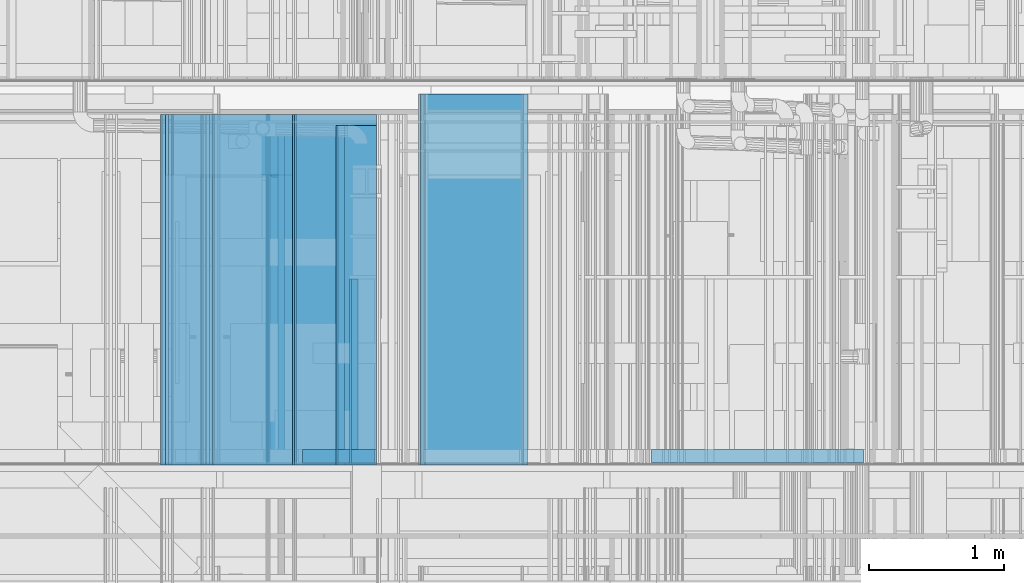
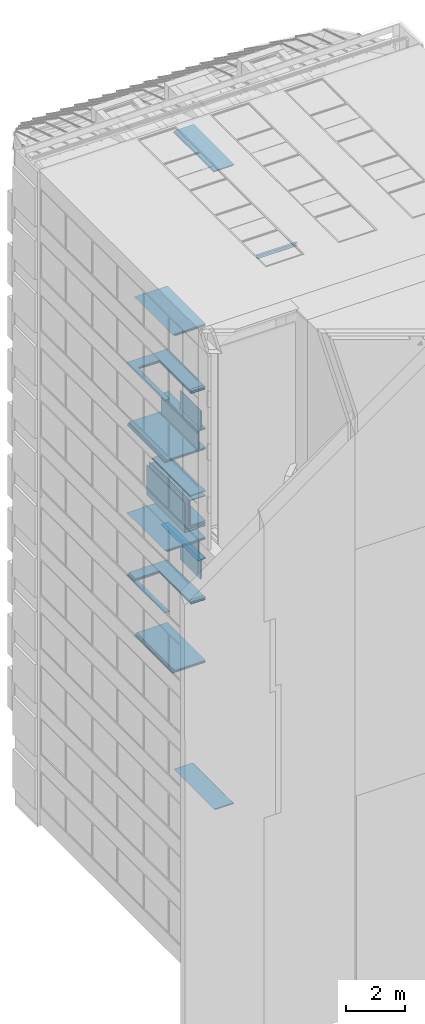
# One storey, part 90 of 583: 54 building element parts, 6 openings, 18 elements without a shape of their own.
"""IFC2X3 building model written with IfcOpenShell, lengths in metres."""

import ifcopenshell
import ifcopenshell.guid

model = None  # the IFC model being written
_history = None  # IfcOwnerHistory: only IFC2X3 demands one
_inside = {}  # id of a spatial element -> (the spatial element, [elements in it])
_under = {}  # id of a project, library or spatial element -> (it, [spatial elements below it])
_declared = {}  # id of a project -> (the project, [libraries it declares])
_typed = {}  # id of a type object -> (the type object, [elements of that type])
_made_of = {}  # id of a material, layer set ... -> (it, [elements and type objects made of it])


def new_model(schema):
    """Start an empty IFC model of exactly this schema.

    Asked for "IFC4X3", IfcOpenShell would pick the latest addendum, in which some entities
    have other attributes; the version numbers below select the first issue.
    IFC2X3 requires an IfcOwnerHistory on every rooted entity: one is made here for all.
    """
    global model, _history
    if schema == "IFC4X3":
        model = ifcopenshell.file(schema_version=(4, 3, 0, 0))
    else:
        model = ifcopenshell.file(schema=schema)
    _inside.clear()
    _under.clear()
    _declared.clear()
    _typed.clear()
    _made_of.clear()
    _history = None
    if model.schema == "IFC2X3":
        org = make("IfcOrganization", Name="unknown")
        user = make(
            "IfcPersonAndOrganization",
            ThePerson=make("IfcPerson", FamilyName="unknown"),
            TheOrganization=org,
        )
        app = make(
            "IfcApplication",
            ApplicationDeveloper=org,
            Version="unknown",
            ApplicationFullName="unknown",
            ApplicationIdentifier="unknown",
        )
        _history = make(
            "IfcOwnerHistory",
            OwningUser=user,
            OwningApplication=app,
            ChangeAction="ADDED",
            CreationDate=0,
        )
    return model


def make(cls, **values):
    """One entity of the class cls with the attributes given. An attribute that is None is left unset."""
    return model.create_entity(
        cls, **{name: value for name, value in values.items() if value is not None}
    )


def entity(cls, *values):
    """Any entity or typed value of the class cls, its attributes in the order of the schema. None: left unset."""
    e = model.create_entity(cls)
    for i, value in enumerate(values):
        if value is not None:
            e[i] = value
    return e


def rooted(cls, **values):
    """An entity with a GlobalId (a new one), such as an element, a storey or a relation."""
    return make(cls, GlobalId=ifcopenshell.guid.new(), OwnerHistory=_history, **values)


def si_unit(unit_type, name, prefix=None):
    """IfcSIUnit, for example si_unit("LENGTHUNIT", "METRE", prefix="MILLI")."""
    return make("IfcSIUnit", UnitType=unit_type, Prefix=prefix, Name=name)


def converted_unit(unit_type, name, factor, base, dimensions=None, offset=None):
    """IfcConversionBasedUnit, such as the inch: factor (a typed value) times the base unit."""
    return make(
        "IfcConversionBasedUnit"
        if offset is None
        else "IfcConversionBasedUnitWithOffset",
        ConversionOffset=offset,
        Dimensions=None
        if dimensions is None
        else entity("IfcDimensionalExponents", *dimensions),
        UnitType=unit_type,
        Name=name,
        ConversionFactor=make(
            "IfcMeasureWithUnit", ValueComponent=factor, UnitComponent=base
        ),
    )


def derived_unit(unit_type, elements):
    """IfcDerivedUnit: a product of units, each with its exponent."""
    return make(
        "IfcDerivedUnit",
        Elements=[
            make("IfcDerivedUnitElement", Unit=unit, Exponent=power)
            for unit, power in elements
        ],
        UnitType=unit_type,
    )


def money_unit(currency):
    """IfcMonetaryUnit."""
    return make("IfcMonetaryUnit", Currency=currency)


def assignment(units):
    """IfcUnitAssignment: the units of a project."""
    return None if units is None else make("IfcUnitAssignment", Units=units)


def point(xyz):
    """IfcCartesianPoint."""
    return None if xyz is None else make("IfcCartesianPoint", Coordinates=xyz)


def direction(xyz):
    """IfcDirection."""
    return None if xyz is None else make("IfcDirection", DirectionRatios=xyz)


def frame(location, z_axis=None, x_axis=None):
    """IfcAxis2Placement3D, a coordinate frame: its origin and axes. An axis left out is left unset."""
    return make(
        "IfcAxis2Placement3D",
        Location=point(location),
        Axis=direction(z_axis),
        RefDirection=direction(x_axis),
    )


def frame_2d(location, x_axis=None):
    """IfcAxis2Placement2D, a coordinate frame in the plane: its origin and x axis."""
    return make(
        "IfcAxis2Placement2D", Location=point(location), RefDirection=direction(x_axis)
    )


def origin_with_axes():
    """The frame at (0, 0, 0) with the z axis (0, 0, 1) and the x axis (1, 0, 0) written out."""
    return frame((0.0, 0.0, 0.0), z_axis=(0.0, 0.0, 1.0), x_axis=(1.0, 0.0, 0.0))


def place(relative_to, where):
    """IfcLocalPlacement: puts the frame where relative to a parent placement (None: the world)."""
    return make(
        "IfcLocalPlacement", PlacementRelTo=relative_to, RelativePlacement=where
    )


def context(
    kind, dimensions, precision=None, world=None, true_north=None, identifier=None
):
    """IfcGeometricRepresentationContext, for example the 3D "Model" context."""
    return make(
        "IfcGeometricRepresentationContext",
        ContextIdentifier=identifier,
        ContextType=kind,
        CoordinateSpaceDimension=dimensions,
        Precision=precision,
        WorldCoordinateSystem=world,
        TrueNorth=true_north,
    )


def subcontext(parent, identifier, kind, view, scale=None):
    """IfcGeometricRepresentationSubContext, for example "Body" below "Model"."""
    return make(
        "IfcGeometricRepresentationSubContext",
        ContextIdentifier=identifier,
        ContextType=kind,
        ParentContext=parent,
        TargetScale=scale,
        TargetView=view,
    )


def project(units=None, contexts=None):
    """IfcProject with its units and contexts."""
    return rooted(
        "IfcProject",
        Name="project",
        RepresentationContexts=contexts,
        UnitsInContext=assignment(units),
    )


def spatial(cls, under=None, at=None, **own):
    """A site, building, storey or space (cls), placed at a placement, below another one or the project."""
    s = rooted(cls, ObjectPlacement=at, **own)
    if under is not None:
        _under.setdefault(under.id(), (under, []))[1].append(s)
    return s


def polyline(points):
    """IfcPolyline through the points."""
    return make("IfcPolyline", Points=[point(p) for p in points])


def profile(cls, at=None, kind="AREA", **sizes):
    """A parametric profile (cls). Its sizes go by their IFC names, for example OverallWidth=200.0."""
    return make(cls, ProfileType=kind, Position=at, **sizes)


def rectangle(**sizes):
    """IfcRectangleProfileDef."""
    return profile("IfcRectangleProfileDef", **sizes)


def outline(outer, holes=None, kind="AREA"):
    """IfcArbitraryClosedProfileDef: a profile drawn as a closed curve; with holes, ...WithVoids."""
    if holes is None:
        return make("IfcArbitraryClosedProfileDef", ProfileType=kind, OuterCurve=outer)
    return make(
        "IfcArbitraryProfileDefWithVoids",
        ProfileType=kind,
        OuterCurve=outer,
        InnerCurves=holes,
    )


def extrude(swept, where, along, depth):
    """IfcExtrudedAreaSolid: the profile swept, set in the frame where, extruded along a direction by depth."""
    return make(
        "IfcExtrudedAreaSolid",
        SweptArea=swept,
        Position=where,
        ExtrudedDirection=direction(along),
        Depth=depth,
    )


def shape(context_of_items, identifier, shape_type, items):
    """IfcShapeRepresentation: the items that make up one representation, for example the "Body"."""
    return make(
        "IfcShapeRepresentation",
        ContextOfItems=context_of_items,
        RepresentationIdentifier=identifier,
        RepresentationType=shape_type,
        Items=items,
    )


def material(Name=None, Category=None):
    """IfcMaterial."""
    return make("IfcMaterial", Name=Name, Category=Category)


def made_of(thing, what):
    """Note that an element or type object is made of a material, layer set ...; save() writes the relation."""
    if what is not None:
        _made_of.setdefault(what.id(), (what, []))[1].append(thing)
    return thing


def type_object(cls, material=None, **own):
    """A type object (cls), such as IfcWallType, which elements share."""
    return made_of(rooted(cls, **own), material)


def element(
    cls,
    number,
    at=None,
    inside=None,
    cuts=None,
    type_object=None,
    material=None,
    context=None,
    identifier="Body",
    shape_type=None,
    held_by="IfcProductDefinitionShape",
    body=None,
    shapes=None,
    **own,
):
    """One element of the class cls, such as IfcWall. Its Tag is "e" and its number.

    at: its placement. inside: the storey or other place that contains it. cuts: it is an
    opening in that element (IfcRelVoidsElement). A single representation is given by context,
    identifier, shape_type and body (its items); several are given by shapes. held_by: the class
    of the entity that holds the representations. save() writes the other relations.
    """
    e = rooted(cls, Tag="e%d" % number, ObjectPlacement=at, **own)
    if body is not None:
        shapes = [shape(context, identifier, shape_type, body)]
    if shapes is not None:
        e.Representation = make(held_by, Representations=shapes)
    if inside is not None:
        _inside.setdefault(inside.id(), (inside, []))[1].append(e)
    if cuts is not None:
        rooted(
            "IfcRelVoidsElement", RelatingBuildingElement=cuts, RelatedOpeningElement=e
        )
    if type_object is not None:
        _typed.setdefault(type_object.id(), (type_object, []))[1].append(e)
    return made_of(e, material)


def aggregate(whole, parts):
    """IfcRelAggregates: a whole, such as a stair, and the parts it consists of."""
    return rooted("IfcRelAggregates", RelatingObject=whole, RelatedObjects=parts)


def save(model, path):
    """Write the relations noted so far, then the file.

    IfcRelAggregates (storeys below a building ...), IfcRelContainedInSpatialStructure (elements
    in a storey), IfcRelDefinesByType, IfcRelAssociatesMaterial and IfcRelDeclares: one each for
    every whole, place, type object, material and project.
    """
    for whole, parts in _under.values():
        aggregate(whole, parts)
    for where, things in _inside.values():
        rooted(
            "IfcRelContainedInSpatialStructure",
            RelatedElements=things,
            RelatingStructure=where,
        )
    for kind, things in _typed.values():
        rooted("IfcRelDefinesByType", RelatedObjects=things, RelatingType=kind)
    for what, things in _made_of.values():
        rooted("IfcRelAssociatesMaterial", RelatedObjects=things, RelatingMaterial=what)
    for by, libraries in _declared.values():
        rooted("IfcRelDeclares", RelatingContext=by, RelatedDefinitions=libraries)
    model.write(path)


model = new_model("IFC2X3")

# Units and contexts
model_context = context("Model", 3, precision=1e-05, world=origin_with_axes(), true_north=direction((0.0, 1.0)))
body_context = subcontext(model_context, "Body", "Model", "MODEL_VIEW", scale=1.0)
ifc_project = project(units=[si_unit("LENGTHUNIT", "METRE"), si_unit("AREAUNIT", "SQUARE_METRE"), si_unit("VOLUMEUNIT", "CUBIC_METRE"), si_unit("ABSORBEDDOSEUNIT", "GRAY"), si_unit("AMOUNTOFSUBSTANCEUNIT", "MOLE"), si_unit("DOSEEQUIVALENTUNIT", "SIEVERT"), si_unit("ELECTRICCAPACITANCEUNIT", "FARAD"), si_unit("ELECTRICCHARGEUNIT", "COULOMB"), si_unit("ELECTRICCONDUCTANCEUNIT", "SIEMENS"), si_unit("ELECTRICCURRENTUNIT", "AMPERE"), si_unit("ELECTRICRESISTANCEUNIT", "OHM"), si_unit("ELECTRICVOLTAGEUNIT", "VOLT"), si_unit("ENERGYUNIT", "JOULE"), si_unit("FORCEUNIT", "NEWTON"), si_unit("FREQUENCYUNIT", "HERTZ"), si_unit("ILLUMINANCEUNIT", "LUX"), si_unit("INDUCTANCEUNIT", "HENRY"), si_unit("LUMINOUSFLUXUNIT", "LUMEN"), si_unit("LUMINOUSINTENSITYUNIT", "CANDELA"), si_unit("MAGNETICFLUXDENSITYUNIT", "TESLA"), si_unit("MAGNETICFLUXUNIT", "WEBER"), si_unit("MASSUNIT", "GRAM"), converted_unit("PLANEANGLEUNIT", "degree", entity("IfcReal", 0.0174532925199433), si_unit("PLANEANGLEUNIT", "RADIAN"), dimensions=[0, 0, 0, 0, 0, 0, 0]), si_unit("POWERUNIT", "WATT"), si_unit("PRESSUREUNIT", "PASCAL"), si_unit("RADIOACTIVITYUNIT", "BECQUEREL"), si_unit("SOLIDANGLEUNIT", "STERADIAN"), si_unit("THERMODYNAMICTEMPERATUREUNIT", "KELVIN"), si_unit("TIMEUNIT", "SECOND"), derived_unit("ACCELERATIONUNIT", [(si_unit("LENGTHUNIT", "METRE"), 1), (si_unit("TIMEUNIT", "SECOND"), -2)]), derived_unit("ANGULARVELOCITYUNIT", [(converted_unit("PLANEANGLEUNIT", "degree", entity("IfcReal", 0.0174532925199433), si_unit("PLANEANGLEUNIT", "RADIAN"), dimensions=[0, 0, 0, 0, 0, 0, 0]), 1), (si_unit("TIMEUNIT", "SECOND"), -1)]), derived_unit("CURVATUREUNIT", [(converted_unit("PLANEANGLEUNIT", "degree", entity("IfcReal", 0.0174532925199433), si_unit("PLANEANGLEUNIT", "RADIAN"), dimensions=[0, 0, 0, 0, 0, 0, 0]), 1), (si_unit("LENGTHUNIT", "METRE"), -1)]), derived_unit("DYNAMICVISCOSITYUNIT", [(si_unit("PRESSUREUNIT", "PASCAL"), 1), (si_unit("TIMEUNIT", "SECOND"), 1)]), derived_unit("HEATFLUXDENSITYUNIT", [(si_unit("POWERUNIT", "WATT"), 1), (si_unit("LENGTHUNIT", "METRE"), -2)]), derived_unit("HEATINGVALUEUNIT", [(si_unit("ENERGYUNIT", "JOULE"), 1), (si_unit("MASSUNIT", "GRAM"), -1)]), derived_unit("INTEGERCOUNTRATEUNIT", [(si_unit("TIMEUNIT", "SECOND"), -1)]), derived_unit("IONCONCENTRATIONUNIT", [(si_unit("MASSUNIT", "GRAM"), 1), (si_unit("VOLUMEUNIT", "CUBIC_METRE"), -1)]), derived_unit("ISOTHERMALMOISTURECAPACITYUNIT", [(si_unit("VOLUMEUNIT", "CUBIC_METRE"), 1), (si_unit("MASSUNIT", "GRAM"), -1)]), derived_unit("KINEMATICVISCOSITYUNIT", [(si_unit("AREAUNIT", "SQUARE_METRE"), 1), (si_unit("TIMEUNIT", "SECOND"), -1)]), derived_unit("LINEARFORCEUNIT", [(si_unit("FORCEUNIT", "NEWTON"), 1), (si_unit("LENGTHUNIT", "METRE"), -1)]), derived_unit("LINEARMOMENTUNIT", [(si_unit("FORCEUNIT", "NEWTON"), 1), (si_unit("LENGTHUNIT", "METRE"), -1)]), derived_unit("LINEARSTIFFNESSUNIT", [(si_unit("FORCEUNIT", "NEWTON"), 1), (si_unit("LENGTHUNIT", "METRE"), -1)]), derived_unit("LINEARVELOCITYUNIT", [(si_unit("LENGTHUNIT", "METRE"), 1), (si_unit("TIMEUNIT", "SECOND"), -1)]), derived_unit("LUMINOUSINTENSITYDISTRIBUTIONUNIT", [(si_unit("LUMINOUSINTENSITYUNIT", "CANDELA"), 1), (si_unit("LUMINOUSFLUXUNIT", "LUMEN"), -1)]), derived_unit("MASSDENSITYUNIT", [(si_unit("MASSUNIT", "GRAM"), 1), (si_unit("VOLUMEUNIT", "CUBIC_METRE"), -1)]), derived_unit("MASSFLOWRATEUNIT", [(si_unit("MASSUNIT", "GRAM"), 1), (si_unit("TIMEUNIT", "SECOND"), -1)]), derived_unit("MASSPERLENGTHUNIT", [(si_unit("MASSUNIT", "GRAM"), 1), (si_unit("LENGTHUNIT", "METRE"), -1)]), derived_unit("MODULUSOFELASTICITYUNIT", [(si_unit("FORCEUNIT", "NEWTON"), 1), (si_unit("AREAUNIT", "SQUARE_METRE"), -1)]), derived_unit("MODULUSOFLINEARSUBGRADEREACTIONUNIT", [(si_unit("FORCEUNIT", "NEWTON"), 1), (si_unit("LENGTHUNIT", "METRE"), -2)]), derived_unit("MODULUSOFROTATIONALSUBGRADEREACTIONUNIT", [(si_unit("FORCEUNIT", "NEWTON"), 1), (si_unit("LENGTHUNIT", "METRE"), 1)]), derived_unit("MODULUSOFSUBGRADEREACTIONUNIT", [(si_unit("FORCEUNIT", "NEWTON"), 1), (si_unit("VOLUMEUNIT", "CUBIC_METRE"), -1)]), derived_unit("MOISTUREDIFFUSIVITYUNIT", [(si_unit("VOLUMEUNIT", "CUBIC_METRE"), 1), (si_unit("TIMEUNIT", "SECOND"), -1)]), derived_unit("MOLECULARWEIGHTUNIT", [(si_unit("MASSUNIT", "GRAM"), 1), (si_unit("AMOUNTOFSUBSTANCEUNIT", "MOLE"), -1)]), derived_unit("PLANARFORCEUNIT", [(si_unit("FORCEUNIT", "NEWTON"), 1), (si_unit("LENGTHUNIT", "METRE"), -2)]), derived_unit("ROTATIONALFREQUENCYUNIT", [(si_unit("TIMEUNIT", "SECOND"), -1)]), derived_unit("ROTATIONALMASSUNIT", [(si_unit("MASSUNIT", "GRAM"), 1), (si_unit("LENGTHUNIT", "METRE"), 2)]), derived_unit("ROTATIONALSTIFFNESSUNIT", [(si_unit("FORCEUNIT", "NEWTON"), 1), (si_unit("LENGTHUNIT", "METRE"), 1), (converted_unit("PLANEANGLEUNIT", "degree", entity("IfcReal", 0.0174532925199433), si_unit("PLANEANGLEUNIT", "RADIAN"), dimensions=[0, 0, 0, 0, 0, 0, 0]), -1)]), derived_unit("SECTIONAREAINTEGRALUNIT", [(si_unit("LENGTHUNIT", "METRE"), 5)]), derived_unit("SECTIONMODULUSUNIT", [(si_unit("LENGTHUNIT", "METRE"), 3)]), derived_unit("SHEARMODULUSUNIT", [(si_unit("FORCEUNIT", "NEWTON"), 1), (si_unit("AREAUNIT", "SQUARE_METRE"), -1)]), derived_unit("SOUNDPOWERUNIT", [(si_unit("ENERGYUNIT", "JOULE"), 1), (si_unit("TIMEUNIT", "SECOND"), -1)]), derived_unit("SPECIFICHEATCAPACITYUNIT", [(si_unit("FORCEUNIT", "NEWTON"), 1), (si_unit("MASSUNIT", "GRAM"), -1), (si_unit("THERMODYNAMICTEMPERATUREUNIT", "KELVIN"), -1)]), derived_unit("TEMPERATUREGRADIENTUNIT", [(si_unit("THERMODYNAMICTEMPERATUREUNIT", "KELVIN"), 1), (si_unit("LENGTHUNIT", "METRE"), -1)]), derived_unit("THERMALADMITTANCEUNIT", [(si_unit("POWERUNIT", "WATT"), 1), (si_unit("AREAUNIT", "SQUARE_METRE"), -1), (si_unit("THERMODYNAMICTEMPERATUREUNIT", "KELVIN"), -1)]), derived_unit("THERMALCONDUCTANCEUNIT", [(si_unit("POWERUNIT", "WATT"), 1), (si_unit("LENGTHUNIT", "METRE"), -1), (si_unit("THERMODYNAMICTEMPERATUREUNIT", "KELVIN"), -1)]), derived_unit("THERMALEXPANSIONCOEFFICIENTUNIT", [(si_unit("THERMODYNAMICTEMPERATUREUNIT", "KELVIN"), -1)]), derived_unit("THERMALRESISTANCEUNIT", [(si_unit("AREAUNIT", "SQUARE_METRE"), 1), (si_unit("POWERUNIT", "WATT"), -1)]), derived_unit("THERMALTRANSMITTANCEUNIT", [(si_unit("POWERUNIT", "WATT"), 1), (si_unit("AREAUNIT", "SQUARE_METRE"), -1), (si_unit("THERMODYNAMICTEMPERATUREUNIT", "KELVIN"), -1)]), derived_unit("TORQUEUNIT", [(si_unit("FORCEUNIT", "NEWTON"), 1), (si_unit("LENGTHUNIT", "METRE"), 1)]), derived_unit("VAPORPERMEABILITYUNIT", [(si_unit("MASSUNIT", "GRAM"), 1), (si_unit("TIMEUNIT", "SECOND"), -1)]), derived_unit("VOLUMETRICFLOWRATEUNIT", [(si_unit("VOLUMEUNIT", "CUBIC_METRE"), 1), (si_unit("TIMEUNIT", "SECOND"), -1)]), derived_unit("WARPINGCONSTANTUNIT", [(si_unit("LENGTHUNIT", "METRE"), 6)]), derived_unit("WARPINGMOMENTUNIT", [(si_unit("FORCEUNIT", "NEWTON"), 1), (si_unit("LENGTHUNIT", "METRE"), 2)]), money_unit("GBP")], contexts=[model_context])

# Site, building, storey
site_placement = place(None, origin_with_axes())
site = spatial("IfcSite", under=ifc_project, at=site_placement, Name="Site", CompositionType="ELEMENT")
building_placement = place(site_placement, origin_with_axes())
building = spatial("IfcBuilding", under=site, at=building_placement, Name="Building01", CompositionType="ELEMENT")
storey_placement = place(building_placement, frame((0.0, 0.0, 20.78), z_axis=(0.0, 0.0, 1.0), x_axis=(1.0, 0.0, 0.0)))
storey = spatial("IfcBuildingStorey", under=building, at=storey_placement, Name="RL", CompositionType="ELEMENT", Elevation=20.78)

# Wall, building element parts
wall_type_1 = type_object("IfcWallType", Name="SHE_A-Walls_Type06d_ExternalWallInsulation_48mm", PredefinedType="NOTDEFINED")
wall_1_placement = place(storey_placement, frame((6.1, 12.13, -20.51), z_axis=(0.0, 1.0, 0.0), x_axis=(-1.0, 0.0, 0.0)))
wall_1 = element("IfcWall", 1, at=wall_1_placement, inside=storey, type_object=wall_type_1, Name="6D", ObjectType="SHE_A-Walls_Type06d_ExternalWallInsulation_48mm")
ifc_material_1 = material(Name="A_BSUK_Insulation")
placement_1 = place(wall_1_placement, origin_with_axes())
building_element_part_1 = element("IfcBuildingElementPart", 2, at=placement_1, material=ifc_material_1, Name="1", context=body_context, shape_type="SweptSolid", body=[
    extrude(outline(polyline([(0.773, 0.036), (0.036, 0.036), (0.0, 0.0), (0.737, 0.0), (0.773, 0.036)])), origin_with_axes(), (0.0, 0.0, 1.0), 2.74),
])
ifc_material_2 = material(Name="A_BSUK_WallInternal_Finishes_Plasterboard")
building_element_part_2 = element("IfcBuildingElementPart", 3, at=placement_1, material=ifc_material_2, Name="3", context=body_context, shape_type="SweptSolid", body=[
    extrude(outline(polyline([(0.785, 0.048), (0.048, 0.048), (0.035, 0.035), (0.772, 0.035), (0.785, 0.048)])), origin_with_axes(), (0.0, 0.0, 1.0), 2.74),
])
aggregate(wall_1, [building_element_part_1, building_element_part_2])

wall_2_placement = place(storey_placement, frame((5.34018, 12.13, 5.93), z_axis=(0.0, 1.0, 0.0), x_axis=(1.0, 0.0, 0.0)))
wall_2 = element("IfcWall", 4, at=wall_2_placement, inside=storey, type_object=wall_type_1, Name="6D", ObjectType="SHE_A-Walls_Type06d_ExternalWallInsulation_48mm")
placement_2 = place(wall_2_placement, origin_with_axes())
building_element_part_3 = element("IfcBuildingElementPart", 5, at=placement_2, material=ifc_material_1, Name="1", context=body_context, shape_type="SweptSolid", body=[
    extrude(outline(polyline([(0.72382, 0.036), (-0.036, 0.036), (0.0, 0.0), (0.75982, 0.0), (0.72382, 0.036)])), origin_with_axes(), (0.0, 0.0, 1.0), 2.74),
])
building_element_part_4 = element("IfcBuildingElementPart", 6, at=placement_2, material=ifc_material_2, Name="3", context=body_context, shape_type="SweptSolid", body=[
    extrude(outline(polyline([(0.71182, 0.048), (-0.048, 0.048), (-0.035, 0.035), (0.72482, 0.035), (0.71182, 0.048)])), origin_with_axes(), (0.0, 0.0, 1.0), 2.74),
])
aggregate(wall_2, [building_element_part_3, building_element_part_4])

wall_type_2 = type_object("IfcWallType", Name="SHE_A-Walls_Type01c_Partywall_225mm_twin_tall", PredefinedType="NOTDEFINED")
wall_3_placement = place(storey_placement, frame((4.302428, 12.13, -8.492), z_axis=(0.0, 1.0, 0.0), x_axis=(0.0, 0.0, 1.0)))
wall_3 = element("IfcWall", 7, at=wall_3_placement, inside=storey, type_object=wall_type_2, Name="1C", ObjectType="SHE_A-Walls_Type01c_Partywall_225mm_twin_tall")
placement_3 = place(wall_3_placement, origin_with_axes())
building_element_part_5 = element("IfcBuildingElementPart", 8, at=placement_3, material=ifc_material_1, Name="1", context=body_context, shape_type="SweptSolid", body=[
    extrude(outline(polyline([(1.1875, 0.0), (0.0, 0.0), (-0.05, -0.05), (1.1875, -0.05), (1.1875, 0.0)])), origin_with_axes(), (0.0, 0.0, 1.0), 2.59),
])
building_element_part_6 = element("IfcBuildingElementPart", 9, at=placement_3, material=ifc_material_2, Name="3", context=body_context, shape_type="SweptSolid", body=[
    extrude(outline(polyline([(1.1145, 0.087), (0.087, 0.087), (0.072, 0.072), (1.1145, 0.072), (1.1145, 0.087)])), origin_with_axes(), (0.0, 0.0, 1.0), 2.59),
])
building_element_part_7 = element("IfcBuildingElementPart", 10, at=placement_3, material=ifc_material_2, Name="4", context=body_context, shape_type="SweptSolid", body=[
    extrude(outline(polyline([(1.1145, 0.072), (0.072, 0.072), (0.057, 0.057), (1.1145, 0.057), (1.1145, 0.072)])), origin_with_axes(), (0.0, 0.0, 1.0), 2.59),
])
building_element_part_8 = element("IfcBuildingElementPart", 11, at=placement_3, material=ifc_material_2, Name="5", context=body_context, shape_type="SweptSolid", body=[
    extrude(outline(polyline([(1.1145, -0.108), (-0.108, -0.108), (-0.123, -0.123), (1.1145, -0.123), (1.1145, -0.108)])), origin_with_axes(), (0.0, 0.0, 1.0), 2.59),
])
building_element_part_9 = element("IfcBuildingElementPart", 12, at=placement_3, material=ifc_material_2, Name="6", context=body_context, shape_type="SweptSolid", body=[
    extrude(outline(polyline([(1.0995, -0.123), (-0.123, -0.123), (-0.138, -0.138), (1.0995, -0.138), (1.0995, -0.123)])), origin_with_axes(), (0.0, 0.0, 1.0), 2.59),
])
aggregate(wall_3, [building_element_part_5, building_element_part_6, building_element_part_7, building_element_part_8, building_element_part_9])

wall_4_placement = place(storey_placement, frame((4.995, 12.13, -7.2795), z_axis=(0.0, 1.0, 0.0), x_axis=(-1.0, 0.0, 0.0)))
wall_4 = element("IfcWall", 13, at=wall_4_placement, inside=storey, type_object=wall_type_2, Name="1C", ObjectType="SHE_A-Walls_Type01c_Partywall_225mm_twin_tall")
placement_4 = place(wall_4_placement, origin_with_axes())
building_element_part_10 = element("IfcBuildingElementPart", 14, at=placement_4, material=ifc_material_2, Name="3", context=body_context, shape_type="SweptSolid", body=[
    extrude(rectangle(XDim=0.590572, YDim=0.015, at=frame_2d((0.310286, 0.1045), x_axis=(-1.0, 0.0))), origin_with_axes(), (0.0, 0.0, 1.0), 2.59),
])
building_element_part_11 = element("IfcBuildingElementPart", 15, at=placement_4, material=ifc_material_2, Name="4", context=body_context, shape_type="SweptSolid", body=[
    extrude(rectangle(XDim=0.620572, YDim=0.015, at=frame_2d((0.325286, 0.0895), x_axis=(-1.0, 0.0))), origin_with_axes(), (0.0, 0.0, 1.0), 2.59),
])
building_element_part_12 = element("IfcBuildingElementPart", 16, at=placement_4, material=ifc_material_2, Name="5", context=body_context, shape_type="SweptSolid", body=[
    extrude(rectangle(XDim=0.620572, YDim=0.015, at=frame_2d((0.325286, -0.0905), x_axis=(-1.0, 0.0))), origin_with_axes(), (0.0, 0.0, 1.0), 2.59),
])
building_element_part_13 = element("IfcBuildingElementPart", 17, at=placement_4, material=ifc_material_2, Name="6", context=body_context, shape_type="SweptSolid", body=[
    extrude(rectangle(XDim=0.590572, YDim=0.015, at=frame_2d((0.310286, -0.1055), x_axis=(-1.0, 0.0))), origin_with_axes(), (0.0, 0.0, 1.0), 2.59),
])
aggregate(wall_4, [building_element_part_10, building_element_part_11, building_element_part_12, building_element_part_13])

wall_5_placement = place(storey_placement, frame((4.98, 12.13, -8.492), z_axis=(0.0, 1.0, 0.0), x_axis=(-1.0, 0.0, 0.0)))
wall_5 = element("IfcWall", 18, at=wall_5_placement, inside=storey, type_object=wall_type_2, Name="1C", ObjectType="SHE_A-Walls_Type01c_Partywall_225mm_twin_tall")
placement_5 = place(wall_5_placement, origin_with_axes())
building_element_part_14 = element("IfcBuildingElementPart", 19, at=placement_5, material=ifc_material_1, Name="1", context=body_context, shape_type="SweptSolid", body=[
    extrude(outline(polyline([(0.677572, 0.0), (0.0, 0.0), (0.0, -0.05), (0.727572, -0.05), (0.677572, 0.0)])), origin_with_axes(), (0.0, 0.0, 1.0), 2.59),
])
building_element_part_15 = element("IfcBuildingElementPart", 20, at=placement_5, material=ifc_material_2, Name="3", context=body_context, shape_type="SweptSolid", body=[
    extrude(outline(polyline([(0.590572, 0.087), (0.0, 0.087), (0.0, 0.072), (0.605572, 0.072), (0.590572, 0.087)])), origin_with_axes(), (0.0, 0.0, 1.0), 2.59),
])
building_element_part_16 = element("IfcBuildingElementPart", 21, at=placement_5, material=ifc_material_2, Name="4", context=body_context, shape_type="SweptSolid", body=[
    extrude(outline(polyline([(0.605572, 0.072), (0.0, 0.072), (0.0, 0.057), (0.620572, 0.057), (0.605572, 0.072)])), origin_with_axes(), (0.0, 0.0, 1.0), 2.59),
])
building_element_part_17 = element("IfcBuildingElementPart", 22, at=placement_5, material=ifc_material_2, Name="5", context=body_context, shape_type="SweptSolid", body=[
    extrude(outline(polyline([(0.785572, -0.108), (0.0, -0.108), (0.0, -0.123), (0.800572, -0.123), (0.785572, -0.108)])), origin_with_axes(), (0.0, 0.0, 1.0), 2.59),
])
building_element_part_18 = element("IfcBuildingElementPart", 23, at=placement_5, material=ifc_material_2, Name="6", context=body_context, shape_type="SweptSolid", body=[
    extrude(outline(polyline([(0.800572, -0.123), (0.0, -0.123), (0.0, -0.138), (0.815572, -0.138), (0.800572, -0.123)])), origin_with_axes(), (0.0, 0.0, 1.0), 2.59),
])
aggregate(wall_5, [building_element_part_14, building_element_part_15, building_element_part_16, building_element_part_17, building_element_part_18])

wall_type_3 = type_object("IfcWallType", Name="SHE_A-Walls_Type05c_PreWallShell_65mm", PredefinedType="NOTDEFINED")
wall_6_placement = place(storey_placement, frame((4.845, 12.13, -4.5725), z_axis=(0.0, 1.0, 0.0), x_axis=(0.0, 0.0, 1.0)))
wall_6 = element("IfcWall", 24, at=wall_6_placement, inside=storey, type_object=wall_type_3, Name="5C", ObjectType="SHE_A-Walls_Type05c_PreWallShell_65mm")
ifc_material_3 = material(Name="A_BSUK_OpeningsClearance")
placement_6 = place(wall_6_placement, origin_with_axes())
building_element_part_19 = element("IfcBuildingElementPart", 25, at=placement_6, material=ifc_material_3, Name="1", context=body_context, shape_type="SweptSolid", body=[
    extrude(outline(polyline([(0.735, 0.0), (0.0, 0.0), (0.0, -0.05), (0.785, -0.05), (0.735, 0.0)])), origin_with_axes(), (0.0, 0.0, 1.0), 1.375),
])
ifc_material_4 = material(Name="A_BSUK_Walls_Timber")
building_element_part_20 = element("IfcBuildingElementPart", 26, at=placement_6, material=ifc_material_4, Name="2", context=body_context, shape_type="SweptSolid", body=[
    extrude(outline(polyline([(0.785, -0.05), (0.0, -0.05), (0.0, -0.065), (0.8, -0.065), (0.785, -0.05)])), origin_with_axes(), (0.0, 0.0, 1.0), 1.375),
])
aggregate(wall_6, [building_element_part_19, building_element_part_20])

wall_type_4 = type_object("IfcWallType", Name="SHE_A-Walls_Type05a_Partition_95mm_tall", PredefinedType="NOTDEFINED")
wall_7_placement = place(storey_placement, frame((3.42, 12.13, -5.4325), z_axis=(0.0, 1.0, 0.0), x_axis=(1.0, 0.0, 0.0)))
wall_7 = element("IfcWall", 27, at=wall_7_placement, inside=storey, type_object=wall_type_4, Name="5A", ObjectType="SHE_A-Walls_Type05a_Partition_95mm_tall")
placement_7 = place(wall_7_placement, origin_with_axes())
building_element_part_21 = element("IfcBuildingElementPart", 28, at=placement_7, material=ifc_material_1, Name="1", context=body_context, shape_type="SweptSolid", body=[
    extrude(outline(polyline([(1.56, 0.0), (0.0, 0.0), (0.025, -0.025), (1.56, -0.025), (1.56, 0.0)])), origin_with_axes(), (0.0, 0.0, 1.0), 2.59),
])
building_element_part_22 = element("IfcBuildingElementPart", 29, at=placement_7, material=ifc_material_2, Name="4", context=body_context, shape_type="SweptSolid", body=[
    extrude(outline(polyline([(1.56, 0.035), (-0.035, 0.035), (-0.023, 0.023), (1.56, 0.023), (1.56, 0.035)])), origin_with_axes(), (0.0, 0.0, 1.0), 2.59),
])
building_element_part_23 = element("IfcBuildingElementPart", 30, at=placement_7, material=ifc_material_2, Name="5", context=body_context, shape_type="SweptSolid", body=[
    extrude(outline(polyline([(1.56, -0.048), (0.048, -0.048), (0.06, -0.06), (1.56, -0.06), (1.56, -0.048)])), origin_with_axes(), (0.0, 0.0, 1.0), 2.59),
])
aggregate(wall_7, [building_element_part_21, building_element_part_22, building_element_part_23])

wall_8_placement = place(storey_placement, frame((6.965, 12.13, 1.756661), z_axis=(0.0, 1.0, 0.0), x_axis=(1.0, 0.0, 0.0)))
wall_8 = element("IfcWall", 31, at=wall_8_placement, inside=storey, type_object=wall_type_4, Name="5A", ObjectType="SHE_A-Walls_Type05a_Partition_95mm_tall")
placement_8 = place(wall_8_placement, origin_with_axes())
building_element_part_24 = element("IfcBuildingElementPart", 32, at=placement_8, material=ifc_material_4, Name="2", context=body_context, shape_type="SweptSolid", body=[
    extrude(rectangle(XDim=1.565, YDim=0.015, at=frame_2d((0.8325, 0.0675), x_axis=(-1.0, 0.0))), frame((0.0, 0.0, 0.015), z_axis=(0.0, 0.0, 1.0), x_axis=(1.0, 0.0, 0.0)), (0.0, 0.0, 1.0), 0.1),
])
building_element_part_25 = element("IfcBuildingElementPart", 33, at=placement_8, material=ifc_material_4, Name="3", context=body_context, shape_type="SweptSolid", body=[
    extrude(rectangle(XDim=1.565, YDim=0.015, at=frame_2d((0.8325, -0.0425), x_axis=(-1.0, 0.0))), frame((0.0, 0.0, 0.015), z_axis=(0.0, 0.0, 1.0), x_axis=(1.0, 0.0, 0.0)), (0.0, 0.0, 1.0), 0.1),
])
aggregate(wall_8, [building_element_part_24, building_element_part_25])

wall_9_placement = place(storey_placement, frame((4.695, 12.13, -4.6375), z_axis=(0.0, 1.0, 0.0), x_axis=(1.0, 0.0, 0.0)))
wall_9 = element("IfcWall", 34, at=wall_9_placement, inside=storey, type_object=wall_type_3, Name="5C", ObjectType="SHE_A-Walls_Type05c_PreWallShell_65mm")
placement_9 = place(wall_9_placement, origin_with_axes())
building_element_part_26 = element("IfcBuildingElementPart", 35, at=placement_9, material=ifc_material_3, Name="1", context=body_context, shape_type="SweptSolid", body=[
    extrude(rectangle(XDim=0.285, YDim=0.05, at=frame_2d((0.1425, -0.025), x_axis=(-1.0, 0.0))), origin_with_axes(), (0.0, 0.0, 1.0), 2.51),
])
building_element_part_27 = element("IfcBuildingElementPart", 36, at=placement_9, material=ifc_material_4, Name="2", context=body_context, shape_type="SweptSolid", body=[
    extrude(rectangle(XDim=0.3, YDim=0.015, at=frame_2d((0.135, -0.0575), x_axis=(-1.0, 0.0))), origin_with_axes(), (0.0, 0.0, 1.0), 2.51),
])
aggregate(wall_9, [building_element_part_26, building_element_part_27])

wall_10_placement = place(storey_placement, frame((4.745, 12.13, -5.3725), z_axis=(0.0, 1.0, 0.0), x_axis=(0.0, 0.0, 1.0)))
wall_10 = element("IfcWall", 37, at=wall_10_placement, inside=storey, type_object=wall_type_3, Name="5C", ObjectType="SHE_A-Walls_Type05c_PreWallShell_65mm")
placement_10 = place(wall_10_placement, origin_with_axes())
building_element_part_28 = element("IfcBuildingElementPart", 38, at=placement_10, material=ifc_material_3, Name="1", context=body_context, shape_type="SweptSolid", body=[
    extrude(rectangle(XDim=0.735, YDim=0.05, at=frame_2d((0.3675, -0.025), x_axis=(-1.0, 0.0))), origin_with_axes(), (0.0, 0.0, 1.0), 2.51),
])
building_element_part_29 = element("IfcBuildingElementPart", 39, at=placement_10, material=ifc_material_4, Name="2", context=body_context, shape_type="SweptSolid", body=[
    extrude(rectangle(XDim=0.785, YDim=0.015, at=frame_2d((0.3925, -0.0575), x_axis=(-1.0, 0.0))), origin_with_axes(), (0.0, 0.0, 1.0), 2.51),
])
aggregate(wall_10, [building_element_part_28, building_element_part_29])

# Wall, openings, building element parts
wall_11_placement = place(storey_placement, frame((4.98, 12.13, -2.9125), z_axis=(0.0, 1.0, 0.0), x_axis=(-1.0, 0.0, 0.0)))
wall_11 = element("IfcWall", 40, at=wall_11_placement, inside=storey, type_object=wall_type_4, Name="5A", ObjectType="SHE_A-Walls_Type05a_Partition_95mm_tall")
opening_1_placement = place(wall_11_placement, frame((0.574219, -0.1, -0.015), z_axis=(0.0, 0.0, 1.0), x_axis=(1.0, 0.0, 0.0)))
element("IfcOpeningElement", 41, at=opening_1_placement, cuts=wall_11, Name="Opening", ObjectType="Opening", context=body_context, shape_type="SweptSolid", body=[
    extrude(rectangle(XDim=0.834, YDim=2.142, at=frame_2d((0.417, 1.071), x_axis=(-1.0, 0.0))), frame((0.0, 0.15, 0.0), z_axis=(0.0, -1.0, 0.0), x_axis=(1.0, 0.0, 0.0)), (0.0, 0.0, 1.0), 0.3),
])
opening_2_placement = place(wall_11_placement, frame((0.774219, -0.06, 0.0), z_axis=(0.0, 0.0, 1.0), x_axis=(1.0, 0.0, 0.0)))
element("IfcOpeningElement", 42, at=opening_2_placement, cuts=wall_11, Name="Opening", ObjectType="Opening", context=body_context, shape_type="SweptSolid", body=[
    extrude(rectangle(XDim=2.142, YDim=0.834, at=frame_2d((0.417, 1.071), x_axis=(0.0, -1.0))), frame((0.0, 0.09, 0.0), z_axis=(0.0, -1.0, 0.0), x_axis=(1.0, 0.0, 0.0)), (0.0, 0.0, 1.0), 0.18),
])
opening_3_placement = place(wall_11_placement, frame((0.574219, 0.035, 0.0), z_axis=(0.0, 0.0, 1.0), x_axis=(1.0, 0.0, 0.0)))
element("IfcOpeningElement", 43, at=opening_3_placement, cuts=wall_11, Name="Opening", ObjectType="Opening", context=body_context, shape_type="SweptSolid", body=[
    extrude(rectangle(XDim=2.142, YDim=0.834, at=frame_2d((-0.417, 1.071), x_axis=(0.0, -1.0))), frame((0.0, -0.09, 0.0), z_axis=(0.0, 1.0, 0.0), x_axis=(-1.0, 0.0, 0.0)), (0.0, 0.0, 1.0), 0.18),
])
placement_11 = place(wall_11_placement, origin_with_axes())
building_element_part_30 = element("IfcBuildingElementPart", 44, at=placement_11, material=ifc_material_1, Name="1", context=body_context, shape_type="SweptSolid", body=[
    extrude(outline(polyline([(1.56, 0.0), (0.0, 0.0), (0.0, -0.025), (1.535, -0.025), (1.56, 0.0)])), origin_with_axes(), (0.0, 0.0, 1.0), 2.59),
])
building_element_part_31 = element("IfcBuildingElementPart", 45, at=placement_11, material=ifc_material_4, Name="2", context=body_context, shape_type="SweptSolid", body=[
    extrude(rectangle(XDim=0.015, YDim=0.532219, at=frame_2d((0.28111, 0.0425), x_axis=(0.0, -1.0))), frame((0.0, 0.0, 0.015), z_axis=(0.0, 0.0, 1.0), x_axis=(1.0, 0.0, 0.0)), (0.0, 0.0, 1.0), 0.1),
])
building_element_part_32 = element("IfcBuildingElementPart", 46, at=placement_11, material=ifc_material_4, Name="3", context=body_context, shape_type="SweptSolid", body=[
    extrude(rectangle(XDim=0.015, YDim=0.532219, at=frame_2d((0.28111, -0.0675), x_axis=(0.0, -1.0))), frame((0.0, 0.0, 0.015), z_axis=(0.0, 0.0, 1.0), x_axis=(1.0, 0.0, 0.0)), (0.0, 0.0, 1.0), 0.1),
])
building_element_part_33 = element("IfcBuildingElementPart", 47, at=placement_11, material=ifc_material_2, Name="4", context=body_context, shape_type="SweptSolid", body=[
    extrude(outline(polyline([(1.595, 0.035), (0.0, 0.035), (0.0, 0.023), (1.583, 0.023), (1.595, 0.035)])), origin_with_axes(), (0.0, 0.0, 1.0), 2.59),
])
building_element_part_34 = element("IfcBuildingElementPart", 48, at=placement_11, material=ifc_material_2, Name="5", context=body_context, shape_type="SweptSolid", body=[
    extrude(outline(polyline([(1.512, -0.048), (0.0, -0.048), (0.0, -0.06), (1.5, -0.06), (1.512, -0.048)])), origin_with_axes(), (0.0, 0.0, 1.0), 2.59),
])
aggregate(wall_11, [building_element_part_30, building_element_part_31, building_element_part_32, building_element_part_33, building_element_part_34])

# Wall, building element parts
wall_12_placement = place(storey_placement, frame((4.845, 12.13, -9.987464), z_axis=(0.0, 1.0, 0.0), x_axis=(0.0, 0.0, 1.0)))
wall_12 = element("IfcWall", 49, at=wall_12_placement, inside=storey, type_object=wall_type_3, Name="5C", ObjectType="SHE_A-Walls_Type05c_PreWallShell_65mm")
placement_12 = place(wall_12_placement, origin_with_axes())
building_element_part_35 = element("IfcBuildingElementPart", 50, at=placement_12, material=ifc_material_3, Name="1", context=body_context, shape_type="SweptSolid", body=[
    extrude(outline(polyline([(-0.785, -0.05), (0.0, -0.05), (0.0, 0.0), (-0.735, 0.0), (-0.785, -0.05)])), origin_with_axes(), (0.0, 0.0, 1.0), 1.375),
])
building_element_part_36 = element("IfcBuildingElementPart", 51, at=placement_12, material=ifc_material_4, Name="2", context=body_context, shape_type="SweptSolid", body=[
    extrude(outline(polyline([(-0.8, -0.065), (0.0, -0.065), (0.0, -0.05), (-0.785, -0.05), (-0.8, -0.065)])), origin_with_axes(), (0.0, 0.0, 1.0), 1.375),
])
aggregate(wall_12, [building_element_part_35, building_element_part_36])

wall_13_placement = place(storey_placement, frame((3.42, 12.13, -9.127464), z_axis=(0.0, 1.0, 0.0), x_axis=(1.0, 0.0, 0.0)))
wall_13 = element("IfcWall", 52, at=wall_13_placement, inside=storey, type_object=wall_type_4, Name="5A", ObjectType="SHE_A-Walls_Type05a_Partition_95mm_tall")
placement_13 = place(wall_13_placement, origin_with_axes())
building_element_part_37 = element("IfcBuildingElementPart", 53, at=placement_13, material=ifc_material_1, Name="1", context=body_context, shape_type="SweptSolid", body=[
    extrude(outline(polyline([(1.56, 0.025), (0.025, 0.025), (0.0, 0.0), (1.56, 0.0), (1.56, 0.025)])), origin_with_axes(), (0.0, 0.0, 1.0), 2.59),
])
building_element_part_38 = element("IfcBuildingElementPart", 54, at=placement_13, material=ifc_material_2, Name="4", context=body_context, shape_type="SweptSolid", body=[
    extrude(outline(polyline([(1.56, -0.023), (-0.023, -0.023), (-0.035, -0.035), (1.56, -0.035), (1.56, -0.023)])), origin_with_axes(), (0.0, 0.0, 1.0), 2.59),
])
building_element_part_39 = element("IfcBuildingElementPart", 55, at=placement_13, material=ifc_material_2, Name="5", context=body_context, shape_type="SweptSolid", body=[
    extrude(outline(polyline([(1.56, 0.06), (0.06, 0.06), (0.048, 0.048), (1.56, 0.048), (1.56, 0.06)])), origin_with_axes(), (0.0, 0.0, 1.0), 2.59),
])
aggregate(wall_13, [building_element_part_37, building_element_part_38, building_element_part_39])

wall_14_placement = place(storey_placement, frame((4.695, 12.13, -9.922464), z_axis=(0.0, 1.0, 0.0), x_axis=(1.0, 0.0, 0.0)))
wall_14 = element("IfcWall", 56, at=wall_14_placement, inside=storey, type_object=wall_type_3, Name="5C", ObjectType="SHE_A-Walls_Type05c_PreWallShell_65mm")
placement_14 = place(wall_14_placement, origin_with_axes())
building_element_part_40 = element("IfcBuildingElementPart", 57, at=placement_14, material=ifc_material_3, Name="1", context=body_context, shape_type="SweptSolid", body=[
    extrude(rectangle(XDim=0.285, YDim=0.05, at=frame_2d((0.1425, 0.025), x_axis=(-1.0, 0.0))), origin_with_axes(), (0.0, 0.0, 1.0), 2.51),
])
building_element_part_41 = element("IfcBuildingElementPart", 58, at=placement_14, material=ifc_material_4, Name="2", context=body_context, shape_type="SweptSolid", body=[
    extrude(rectangle(XDim=0.3, YDim=0.015, at=frame_2d((0.135, 0.0575), x_axis=(-1.0, 0.0))), origin_with_axes(), (0.0, 0.0, 1.0), 2.51),
])
aggregate(wall_14, [building_element_part_40, building_element_part_41])

wall_15_placement = place(storey_placement, frame((4.745, 12.13, -9.187464), z_axis=(0.0, 1.0, 0.0), x_axis=(0.0, 0.0, -1.0)))
wall_15 = element("IfcWall", 59, at=wall_15_placement, inside=storey, type_object=wall_type_3, Name="5C", ObjectType="SHE_A-Walls_Type05c_PreWallShell_65mm")
placement_15 = place(wall_15_placement, origin_with_axes())
building_element_part_42 = element("IfcBuildingElementPart", 60, at=placement_15, material=ifc_material_3, Name="1", context=body_context, shape_type="SweptSolid", body=[
    extrude(rectangle(XDim=0.735, YDim=0.05, at=frame_2d((0.3675, 0.025), x_axis=(-1.0, 0.0))), origin_with_axes(), (0.0, 0.0, 1.0), 2.51),
])
building_element_part_43 = element("IfcBuildingElementPart", 61, at=placement_15, material=ifc_material_4, Name="2", context=body_context, shape_type="SweptSolid", body=[
    extrude(rectangle(XDim=0.785, YDim=0.015, at=frame_2d((0.3925, 0.0575), x_axis=(-1.0, 0.0))), origin_with_axes(), (0.0, 0.0, 1.0), 2.51),
])
aggregate(wall_15, [building_element_part_42, building_element_part_43])

# Wall, openings, building element parts
wall_16_placement = place(storey_placement, frame((4.98, 12.13, -11.647464), z_axis=(0.0, 1.0, 0.0), x_axis=(-1.0, 0.0, 0.0)))
wall_16 = element("IfcWall", 62, at=wall_16_placement, inside=storey, type_object=wall_type_4, Name="5A", ObjectType="SHE_A-Walls_Type05a_Partition_95mm_tall")
opening_4_placement = place(wall_16_placement, frame((0.574219, 0.1, -0.015), z_axis=(0.0, 0.0, 1.0), x_axis=(1.0, 0.0, 0.0)))
element("IfcOpeningElement", 63, at=opening_4_placement, cuts=wall_16, Name="Opening", ObjectType="Opening", context=body_context, shape_type="SweptSolid", body=[
    extrude(rectangle(XDim=0.834, YDim=2.142, at=frame_2d((-0.417, 1.071), x_axis=(1.0, 0.0))), frame((0.0, -0.15, 0.0), z_axis=(0.0, 1.0, 0.0), x_axis=(-1.0, 0.0, 0.0)), (0.0, 0.0, 1.0), 0.3),
])
opening_5_placement = place(wall_16_placement, frame((0.774219, 0.06, 0.0), z_axis=(0.0, 0.0, 1.0), x_axis=(1.0, 0.0, 0.0)))
element("IfcOpeningElement", 64, at=opening_5_placement, cuts=wall_16, Name="Opening", ObjectType="Opening", context=body_context, shape_type="SweptSolid", body=[
    extrude(rectangle(XDim=2.142, YDim=0.834, at=frame_2d((-0.417, 1.071), x_axis=(0.0, -1.0))), frame((0.0, -0.09, 0.0), z_axis=(0.0, 1.0, 0.0), x_axis=(-1.0, 0.0, 0.0)), (0.0, 0.0, 1.0), 0.18),
])
opening_6_placement = place(wall_16_placement, frame((0.574219, 0.06, 0.0), z_axis=(0.0, 0.0, 1.0), x_axis=(1.0, 0.0, 0.0)))
element("IfcOpeningElement", 65, at=opening_6_placement, cuts=wall_16, Name="Opening", ObjectType="Opening", context=body_context, shape_type="SweptSolid", body=[
    extrude(rectangle(XDim=2.142, YDim=0.834, at=frame_2d((-0.417, 1.071), x_axis=(0.0, -1.0))), frame((0.0, -0.09, 0.0), z_axis=(0.0, 1.0, 0.0), x_axis=(-1.0, 0.0, 0.0)), (0.0, 0.0, 1.0), 0.18),
])
placement_16 = place(wall_16_placement, origin_with_axes())
building_element_part_44 = element("IfcBuildingElementPart", 66, at=placement_16, material=ifc_material_1, Name="1", context=body_context, shape_type="SweptSolid", body=[
    extrude(outline(polyline([(1.535, 0.025), (0.0, 0.025), (0.0, 0.0), (1.56, 0.0), (1.535, 0.025)])), origin_with_axes(), (0.0, 0.0, 1.0), 2.59),
])
building_element_part_45 = element("IfcBuildingElementPart", 67, at=placement_16, material=ifc_material_4, Name="2", context=body_context, shape_type="SweptSolid", body=[
    extrude(rectangle(XDim=0.015, YDim=0.547219, at=frame_2d((0.27361, -0.0425), x_axis=(0.0, -1.0))), frame((0.0, 0.0, 0.015), z_axis=(0.0, 0.0, 1.0), x_axis=(1.0, 0.0, 0.0)), (0.0, 0.0, 1.0), 0.1),
])
building_element_part_46 = element("IfcBuildingElementPart", 68, at=placement_16, material=ifc_material_4, Name="3", context=body_context, shape_type="SweptSolid", body=[
    extrude(rectangle(XDim=0.015, YDim=0.547219, at=frame_2d((0.27361, 0.0675), x_axis=(0.0, -1.0))), frame((0.0, 0.0, 0.015), z_axis=(0.0, 0.0, 1.0), x_axis=(1.0, 0.0, 0.0)), (0.0, 0.0, 1.0), 0.1),
])
building_element_part_47 = element("IfcBuildingElementPart", 69, at=placement_16, material=ifc_material_2, Name="4", context=body_context, shape_type="SweptSolid", body=[
    extrude(outline(polyline([(1.583, -0.023), (0.0, -0.023), (0.0, -0.035), (1.595, -0.035), (1.583, -0.023)])), origin_with_axes(), (0.0, 0.0, 1.0), 2.59),
])
building_element_part_48 = element("IfcBuildingElementPart", 70, at=placement_16, material=ifc_material_2, Name="5", context=body_context, shape_type="SweptSolid", body=[
    extrude(outline(polyline([(1.5, 0.06), (0.0, 0.06), (0.0, 0.048), (1.512, 0.048), (1.5, 0.06)])), origin_with_axes(), (0.0, 0.0, 1.0), 2.59),
])
aggregate(wall_16, [building_element_part_44, building_element_part_45, building_element_part_46, building_element_part_47, building_element_part_48])

# Wall, building element parts
wall_17_placement = place(storey_placement, frame((3.72, 12.13, -14.245), z_axis=(0.0, 1.0, 0.0), x_axis=(1.0, 0.0, 0.0)))
wall_17 = element("IfcWall", 71, at=wall_17_placement, inside=storey, type_object=wall_type_4, Name="5A", ObjectType="SHE_A-Walls_Type05a_Partition_95mm_tall")
placement_17 = place(wall_17_placement, origin_with_axes())
building_element_part_49 = element("IfcBuildingElementPart", 72, at=placement_17, material=ifc_material_1, Name="1", context=body_context, shape_type="SweptSolid", body=[
    extrude(outline(polyline([(1.26, 0.0), (0.0, 0.0), (0.025, -0.025), (1.26, -0.025), (1.26, 0.0)])), origin_with_axes(), (0.0, 0.0, 1.0), 2.59),
])
building_element_part_50 = element("IfcBuildingElementPart", 73, at=placement_17, material=ifc_material_2, Name="4", context=body_context, shape_type="SweptSolid", body=[
    extrude(outline(polyline([(1.26, 0.035), (-0.035, 0.035), (-0.023, 0.023), (1.26, 0.023), (1.26, 0.035)])), origin_with_axes(), (0.0, 0.0, 1.0), 2.59),
])
building_element_part_51 = element("IfcBuildingElementPart", 74, at=placement_17, material=ifc_material_2, Name="5", context=body_context, shape_type="SweptSolid", body=[
    extrude(outline(polyline([(1.26, -0.048), (0.048, -0.048), (0.06, -0.06), (1.26, -0.06), (1.26, -0.048)])), origin_with_axes(), (0.0, 0.0, 1.0), 2.59),
])
aggregate(wall_17, [building_element_part_49, building_element_part_50, building_element_part_51])

wall_18_placement = place(storey_placement, frame((3.72, 12.13, -0.305), z_axis=(0.0, 1.0, 0.0), x_axis=(1.0, 0.0, 0.0)))
wall_18 = element("IfcWall", 75, at=wall_18_placement, inside=storey, type_object=wall_type_4, Name="5A", ObjectType="SHE_A-Walls_Type05a_Partition_95mm_tall")
placement_18 = place(wall_18_placement, origin_with_axes())
building_element_part_52 = element("IfcBuildingElementPart", 76, at=placement_18, material=ifc_material_1, Name="1", context=body_context, shape_type="SweptSolid", body=[
    extrude(outline(polyline([(1.26, 0.025), (0.025, 0.025), (0.0, 0.0), (1.26, 0.0), (1.26, 0.025)])), origin_with_axes(), (0.0, 0.0, 1.0), 2.59),
])
building_element_part_53 = element("IfcBuildingElementPart", 77, at=placement_18, material=ifc_material_2, Name="4", context=body_context, shape_type="SweptSolid", body=[
    extrude(outline(polyline([(1.26, -0.023), (-0.023, -0.023), (-0.035, -0.035), (1.26, -0.035), (1.26, -0.023)])), origin_with_axes(), (0.0, 0.0, 1.0), 2.59),
])
building_element_part_54 = element("IfcBuildingElementPart", 78, at=placement_18, material=ifc_material_2, Name="5", context=body_context, shape_type="SweptSolid", body=[
    extrude(outline(polyline([(1.26, 0.06), (0.06, 0.06), (0.048, 0.048), (1.26, 0.048), (1.26, 0.06)])), origin_with_axes(), (0.0, 0.0, 1.0), 2.59),
])
aggregate(wall_18, [building_element_part_52, building_element_part_53, building_element_part_54])

save(model, "model.ifc")
